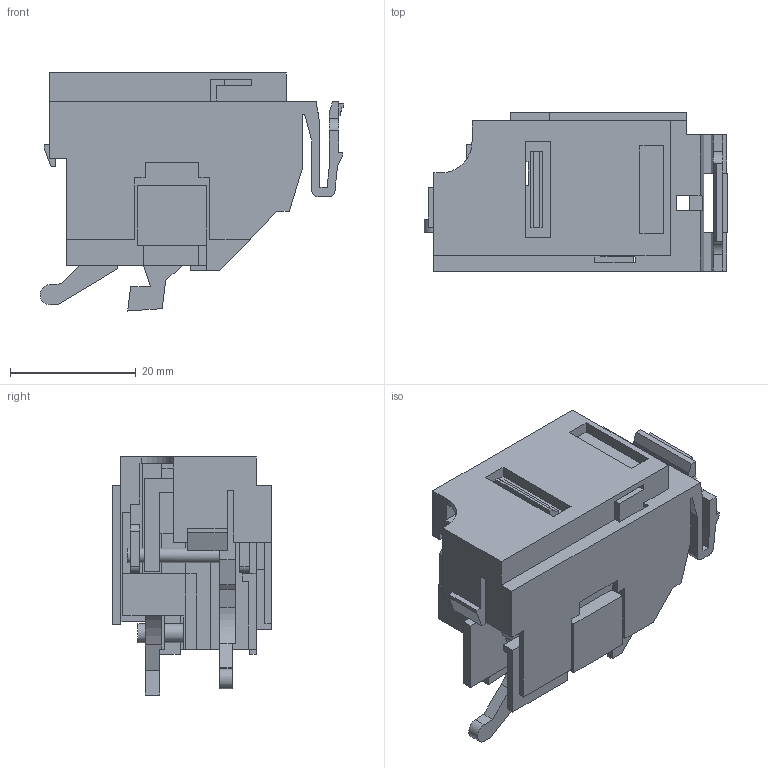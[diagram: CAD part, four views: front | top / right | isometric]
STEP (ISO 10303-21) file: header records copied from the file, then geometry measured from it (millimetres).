
FILE_DESCRIPTION(/* description */ (''),/* implementation_level */ '2;1');
FILE_NAME(/* name */ '分励（MX）TGM1N-160AC230V(右).stp',/* time_stamp */ '2018-10-30T15:37:50+08:00',/* author */ (''),/* organization */ (''),/* preprocessor_version */ 'ST-DEVELOPER v16',/* originating_system */ 'SIEMENS PLM Software NX 10.0',/* authorisation */ '');
FILE_SCHEMA (('AUTOMOTIVE_DESIGN { 1 0 10303 214 3 1 1 1 }'));
Length unit declared in the file: millimetre
Products named in the file (1): boj7F840C24e7xx
Bounding box: 48.32 x 25.2 x 37.87 mm (x, y, z)
Volume: 16344.4 mm3; surface area: 12799.4 mm2
Topology: 1 solids, 1 shells, 287 faces, 865 edges, 574 vertices
Faces by surface type: plane 266, cylinder 21
Full cylindrical faces by diameter (mm): 2.3 x2, 3 x2, 4.5 x1
Entity records: 9542 total; most frequent: CARTESIAN_POINT 1713, ORIENTED_EDGE 1710, DIRECTION 1476, EDGE_CURVE 855, LINE 810, VECTOR 810, VERTEX_POINT 570, AXIS2_PLACEMENT_3D 333
